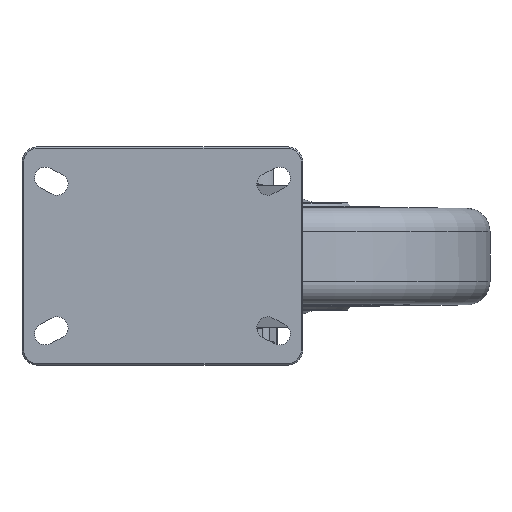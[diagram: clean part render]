
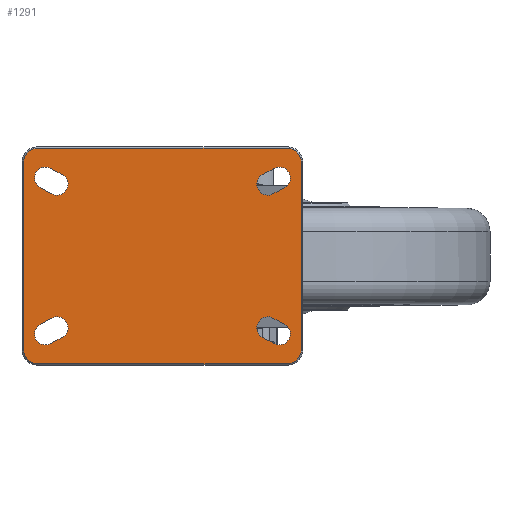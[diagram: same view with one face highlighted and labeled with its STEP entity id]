
A CAD part, top view. The second image highlights one B-rep face of the part: STEP entity #1291.
In plain terms, the highlighted planar face has unit normal (0, 0, 1).
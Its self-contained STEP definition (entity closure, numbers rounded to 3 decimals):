
#1291=ADVANCED_FACE('',(#2113,#2114,#2115,#2116,#2117),#1863,.T.);
#1863=PLANE('',#9469);
#2113=FACE_BOUND('',#2235,.T.);
#2114=FACE_BOUND('',#2236,.T.);
#2115=FACE_BOUND('',#2237,.T.);
#2116=FACE_BOUND('',#2238,.T.);
#2117=FACE_BOUND('',#2239,.T.);
#2235=EDGE_LOOP('',(#3470,#3471,#3472,#3473));
#2236=EDGE_LOOP('',(#3474,#3475,#3476,#3477));
#2237=EDGE_LOOP('',(#3478,#3479,#3480,#3481,#3482,#3483,#3484,#3485));
#2238=EDGE_LOOP('',(#3486,#3487,#3488,#3489));
#2239=EDGE_LOOP('',(#3490,#3491,#3492,#3493));
#2886=CIRCLE('',#9457,7.);
#2887=CIRCLE('',#9458,7.);
#2888=CIRCLE('',#9459,7.);
#2889=CIRCLE('',#9460,7.);
#2890=CIRCLE('',#9461,9.);
#2891=CIRCLE('',#9462,9.);
#2892=CIRCLE('',#9463,9.);
#2893=CIRCLE('',#9464,9.);
#2894=CIRCLE('',#9465,7.);
#2895=CIRCLE('',#9466,7.);
#2896=CIRCLE('',#9467,7.);
#2897=CIRCLE('',#9468,7.);
#3470=ORIENTED_EDGE('',*,*,#7186,.F.);
#3471=ORIENTED_EDGE('',*,*,#7187,.F.);
#3472=ORIENTED_EDGE('',*,*,#7188,.F.);
#3473=ORIENTED_EDGE('',*,*,#7189,.F.);
#3474=ORIENTED_EDGE('',*,*,#7190,.T.);
#3475=ORIENTED_EDGE('',*,*,#7191,.T.);
#3476=ORIENTED_EDGE('',*,*,#7192,.T.);
#3477=ORIENTED_EDGE('',*,*,#7193,.T.);
#3478=ORIENTED_EDGE('',*,*,#7194,.F.);
#3479=ORIENTED_EDGE('',*,*,#7195,.T.);
#3480=ORIENTED_EDGE('',*,*,#7196,.F.);
#3481=ORIENTED_EDGE('',*,*,#7197,.T.);
#3482=ORIENTED_EDGE('',*,*,#7198,.F.);
#3483=ORIENTED_EDGE('',*,*,#7199,.T.);
#3484=ORIENTED_EDGE('',*,*,#7200,.F.);
#3485=ORIENTED_EDGE('',*,*,#7201,.T.);
#3486=ORIENTED_EDGE('',*,*,#7202,.F.);
#3487=ORIENTED_EDGE('',*,*,#7203,.F.);
#3488=ORIENTED_EDGE('',*,*,#7204,.F.);
#3489=ORIENTED_EDGE('',*,*,#7205,.F.);
#3490=ORIENTED_EDGE('',*,*,#7206,.T.);
#3491=ORIENTED_EDGE('',*,*,#7207,.T.);
#3492=ORIENTED_EDGE('',*,*,#7208,.T.);
#3493=ORIENTED_EDGE('',*,*,#7209,.T.);
#6288=VERTEX_POINT('',#14247);
#6289=VERTEX_POINT('',#14248);
#6290=VERTEX_POINT('',#14250);
#6291=VERTEX_POINT('',#14252);
#6292=VERTEX_POINT('',#14255);
#6293=VERTEX_POINT('',#14256);
#6294=VERTEX_POINT('',#14258);
#6295=VERTEX_POINT('',#14260);
#6296=VERTEX_POINT('',#14263);
#6297=VERTEX_POINT('',#14264);
#6298=VERTEX_POINT('',#14266);
#6299=VERTEX_POINT('',#14268);
#6300=VERTEX_POINT('',#14270);
#6301=VERTEX_POINT('',#14272);
#6302=VERTEX_POINT('',#14274);
#6303=VERTEX_POINT('',#14276);
#6304=VERTEX_POINT('',#14279);
#6305=VERTEX_POINT('',#14280);
#6306=VERTEX_POINT('',#14282);
#6307=VERTEX_POINT('',#14284);
#6308=VERTEX_POINT('',#14287);
#6309=VERTEX_POINT('',#14288);
#6310=VERTEX_POINT('',#14290);
#6311=VERTEX_POINT('',#14292);
#7186=EDGE_CURVE('',#6288,#6289,#2886,.T.);
#7187=EDGE_CURVE('',#6290,#6288,#8581,.T.);
#7188=EDGE_CURVE('',#6291,#6290,#2887,.T.);
#7189=EDGE_CURVE('',#6289,#6291,#8582,.T.);
#7190=EDGE_CURVE('',#6292,#6293,#8583,.T.);
#7191=EDGE_CURVE('',#6293,#6294,#2888,.T.);
#7192=EDGE_CURVE('',#6294,#6295,#8584,.T.);
#7193=EDGE_CURVE('',#6295,#6292,#2889,.T.);
#7194=EDGE_CURVE('',#6296,#6297,#2890,.T.);
#7195=EDGE_CURVE('',#6296,#6298,#8585,.T.);
#7196=EDGE_CURVE('',#6299,#6298,#2891,.T.);
#7197=EDGE_CURVE('',#6299,#6300,#8586,.T.);
#7198=EDGE_CURVE('',#6301,#6300,#2892,.T.);
#7199=EDGE_CURVE('',#6301,#6302,#8587,.T.);
#7200=EDGE_CURVE('',#6303,#6302,#2893,.T.);
#7201=EDGE_CURVE('',#6303,#6297,#8588,.T.);
#7202=EDGE_CURVE('',#6304,#6305,#2894,.T.);
#7203=EDGE_CURVE('',#6306,#6304,#8589,.T.);
#7204=EDGE_CURVE('',#6307,#6306,#2895,.T.);
#7205=EDGE_CURVE('',#6305,#6307,#8590,.T.);
#7206=EDGE_CURVE('',#6308,#6309,#8591,.T.);
#7207=EDGE_CURVE('',#6309,#6310,#2896,.T.);
#7208=EDGE_CURVE('',#6310,#6311,#8592,.T.);
#7209=EDGE_CURVE('',#6311,#6308,#2897,.T.);
#8581=LINE('',#14249,#9016);
#8582=LINE('',#14253,#9017);
#8583=LINE('',#14254,#9018);
#8584=LINE('',#14259,#9019);
#8585=LINE('',#14265,#9020);
#8586=LINE('',#14269,#9021);
#8587=LINE('',#14273,#9022);
#8588=LINE('',#14277,#9023);
#8589=LINE('',#14281,#9024);
#8590=LINE('',#14285,#9025);
#8591=LINE('',#14286,#9026);
#8592=LINE('',#14291,#9027);
#9016=VECTOR('',#10925,1.);
#9017=VECTOR('',#10928,1.);
#9018=VECTOR('',#10929,1.);
#9019=VECTOR('',#10932,1.);
#9020=VECTOR('',#10937,1.);
#9021=VECTOR('',#10940,1.);
#9022=VECTOR('',#10943,1.);
#9023=VECTOR('',#10946,1.);
#9024=VECTOR('',#10949,1.);
#9025=VECTOR('',#10952,1.);
#9026=VECTOR('',#10953,1.);
#9027=VECTOR('',#10956,1.);
#9457=AXIS2_PLACEMENT_3D('',#14246,#10923,#10924);
#9458=AXIS2_PLACEMENT_3D('',#14251,#10926,#10927);
#9459=AXIS2_PLACEMENT_3D('',#14257,#10930,#10931);
#9460=AXIS2_PLACEMENT_3D('',#14261,#10933,#10934);
#9461=AXIS2_PLACEMENT_3D('',#14262,#10935,#10936);
#9462=AXIS2_PLACEMENT_3D('',#14267,#10938,#10939);
#9463=AXIS2_PLACEMENT_3D('',#14271,#10941,#10942);
#9464=AXIS2_PLACEMENT_3D('',#14275,#10944,#10945);
#9465=AXIS2_PLACEMENT_3D('',#14278,#10947,#10948);
#9466=AXIS2_PLACEMENT_3D('',#14283,#10950,#10951);
#9467=AXIS2_PLACEMENT_3D('',#14289,#10954,#10955);
#9468=AXIS2_PLACEMENT_3D('',#14293,#10957,#10958);
#9469=AXIS2_PLACEMENT_3D('',#14294,#10959,#10960);
#10923=DIRECTION('',(0.,0.,1.));
#10924=DIRECTION('',(-1.,0.,0.));
#10925=DIRECTION('',(-0.882,0.471,0.));
#10926=DIRECTION('',(0.,0.,1.));
#10927=DIRECTION('',(-1.,0.,0.));
#10928=DIRECTION('',(0.882,-0.471,0.));
#10929=DIRECTION('',(-0.882,-0.471,0.));
#10930=DIRECTION('',(0.,0.,-1.));
#10931=DIRECTION('',(-1.,0.,0.));
#10932=DIRECTION('',(0.882,0.471,0.));
#10933=DIRECTION('',(0.,0.,-1.));
#10934=DIRECTION('',(-1.,0.,0.));
#10935=DIRECTION('',(0.,0.,-1.));
#10936=DIRECTION('',(1.,0.,0.));
#10937=DIRECTION('',(0.,1.,0.));
#10938=DIRECTION('',(0.,0.,-1.));
#10939=DIRECTION('',(0.,1.,0.));
#10940=DIRECTION('',(-1.,0.,0.));
#10941=DIRECTION('',(0.,0.,-1.));
#10942=DIRECTION('',(-1.,0.,0.));
#10943=DIRECTION('',(0.,-1.,0.));
#10944=DIRECTION('',(0.,0.,-1.));
#10945=DIRECTION('',(0.,-1.,0.));
#10946=DIRECTION('',(1.,0.,0.));
#10947=DIRECTION('',(0.,0.,1.));
#10948=DIRECTION('',(1.,0.,0.));
#10949=DIRECTION('',(-0.882,0.471,0.));
#10950=DIRECTION('',(0.,0.,1.));
#10951=DIRECTION('',(1.,0.,0.));
#10952=DIRECTION('',(0.882,-0.471,0.));
#10953=DIRECTION('',(-0.882,-0.471,0.));
#10954=DIRECTION('',(0.,0.,-1.));
#10955=DIRECTION('',(1.,0.,0.));
#10956=DIRECTION('',(0.882,0.471,0.));
#10957=DIRECTION('',(0.,0.,-1.));
#10958=DIRECTION('',(1.,0.,0.));
#10959=DIRECTION('',(0.,0.,1.));
#10960=DIRECTION('',(1.,0.,0.));
#14246=CARTESIAN_POINT('',(67.5,-46.,0.));
#14247=CARTESIAN_POINT('',(70.794,-39.824,0.));
#14248=CARTESIAN_POINT('',(64.206,-52.176,0.));
#14249=CARTESIAN_POINT('',(78.294,-43.824,0.));
#14250=CARTESIAN_POINT('',(78.294,-43.824,0.));
#14251=CARTESIAN_POINT('',(75.,-50.,0.));
#14252=CARTESIAN_POINT('',(71.706,-56.176,0.));
#14253=CARTESIAN_POINT('',(64.206,-52.176,0.));
#14254=CARTESIAN_POINT('',(78.294,43.824,0.));
#14255=CARTESIAN_POINT('',(78.294,43.824,0.));
#14256=CARTESIAN_POINT('',(70.794,39.824,0.));
#14257=CARTESIAN_POINT('',(67.5,46.,0.));
#14258=CARTESIAN_POINT('',(64.206,52.176,0.));
#14259=CARTESIAN_POINT('',(64.206,52.176,0.));
#14260=CARTESIAN_POINT('',(71.706,56.176,0.));
#14261=CARTESIAN_POINT('',(75.,50.,0.));
#14262=CARTESIAN_POINT('',(80.,-60.,0.));
#14263=CARTESIAN_POINT('',(89.,-60.,0.));
#14264=CARTESIAN_POINT('',(80.,-69.,0.));
#14265=CARTESIAN_POINT('',(89.,-60.,0.));
#14266=CARTESIAN_POINT('',(89.,60.,0.));
#14267=CARTESIAN_POINT('',(80.,60.,0.));
#14268=CARTESIAN_POINT('',(80.,69.,0.));
#14269=CARTESIAN_POINT('',(80.,69.,0.));
#14270=CARTESIAN_POINT('',(-80.,69.,0.));
#14271=CARTESIAN_POINT('',(-80.,60.,0.));
#14272=CARTESIAN_POINT('',(-89.,60.,0.));
#14273=CARTESIAN_POINT('',(-89.,60.,0.));
#14274=CARTESIAN_POINT('',(-89.,-60.,0.));
#14275=CARTESIAN_POINT('',(-80.,-60.,0.));
#14276=CARTESIAN_POINT('',(-80.,-69.,0.));
#14277=CARTESIAN_POINT('',(-80.,-69.,0.));
#14278=CARTESIAN_POINT('',(-75.,50.,0.));
#14279=CARTESIAN_POINT('',(-71.706,56.176,0.));
#14280=CARTESIAN_POINT('',(-78.294,43.824,0.));
#14281=CARTESIAN_POINT('',(-64.206,52.176,0.));
#14282=CARTESIAN_POINT('',(-64.206,52.176,0.));
#14283=CARTESIAN_POINT('',(-67.5,46.,0.));
#14284=CARTESIAN_POINT('',(-70.794,39.824,0.));
#14285=CARTESIAN_POINT('',(-78.294,43.824,0.));
#14286=CARTESIAN_POINT('',(-64.206,-52.176,0.));
#14287=CARTESIAN_POINT('',(-64.206,-52.176,0.));
#14288=CARTESIAN_POINT('',(-71.706,-56.176,0.));
#14289=CARTESIAN_POINT('',(-75.,-50.,0.));
#14290=CARTESIAN_POINT('',(-78.294,-43.824,0.));
#14291=CARTESIAN_POINT('',(-78.294,-43.824,0.));
#14292=CARTESIAN_POINT('',(-70.794,-39.824,0.));
#14293=CARTESIAN_POINT('',(-67.5,-46.,0.));
#14294=CARTESIAN_POINT('',(0.,0.,
0.));
